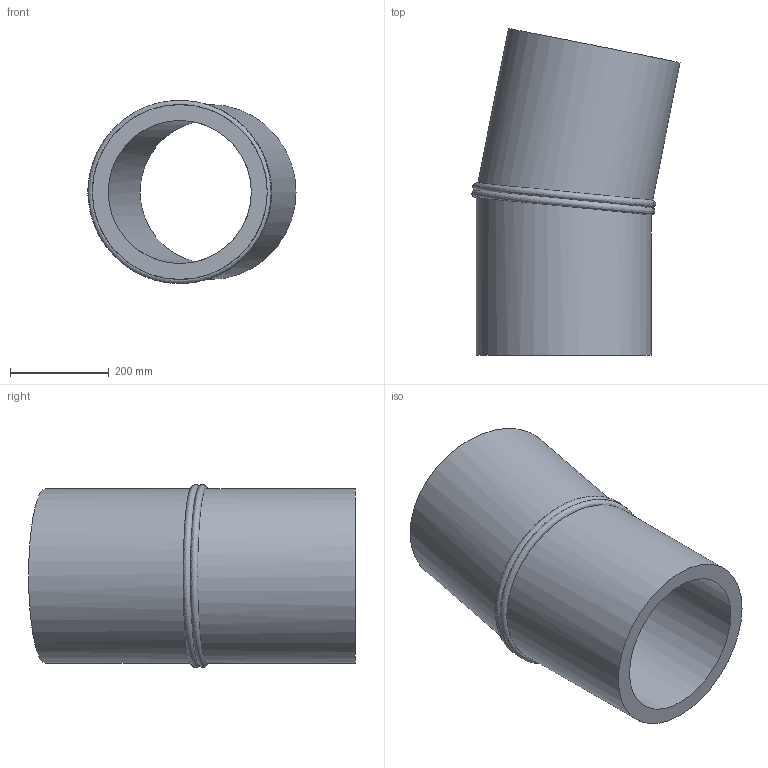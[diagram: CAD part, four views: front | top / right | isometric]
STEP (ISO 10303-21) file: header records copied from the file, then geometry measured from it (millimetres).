
FILE_DESCRIPTION(/* description */ ('Unknown'),/* implementation_level */ '2;1');
FILE_NAME(/* name */ 'Curva 11.25° a settore DE355 SDR11',/* time_stamp */ '2022-07-22T14:42:04+02:00',/* author */ ('Unknown'),/* organization */ ('Unknown'),/* preprocessor_version */ 'ST-DEVELOPER v18.102',/* originating_system */ 'Solid Edge',/* authorisation */ 'Unknown');
FILE_SCHEMA (('AUTOMOTIVE_DESIGN {1 0 10303 214 3 1 1}'));
Length unit declared in the file: millimetre
Products named in the file (2): Curva 11.25° a settore DE355 SDR11; Tubo x Gomito 11.25° DE355 SDR11
Assembly tree (2 placements, depth 2):
  Curva 11.25° a settore DE355 SDR11
    Tubo x Gomito 11.25° DE355 SDR11  x2
Bounding box: 422.46 x 663.49 x 371.42 mm (x, y, z)
Volume: 20960546.2 mm3; surface area: 1443081.2 mm2
Topology: 2 solids, 2 shells, 10 faces, 20 edges, 14 vertices
Faces by surface type: cylinder 4, plane 4, bspline 2
Full cylindrical faces by diameter (mm): 290.6 x2, 355 x2
Entity records: 767 total; most frequent: CARTESIAN_POINT 630, DIRECTION 20, ORIENTED_EDGE 10, EDGE_LOOP 10, FACE_BOUND 10, AXIS2_PLACEMENT_3D 10, EDGE_CURVE 5, VERTEX_POINT 5
